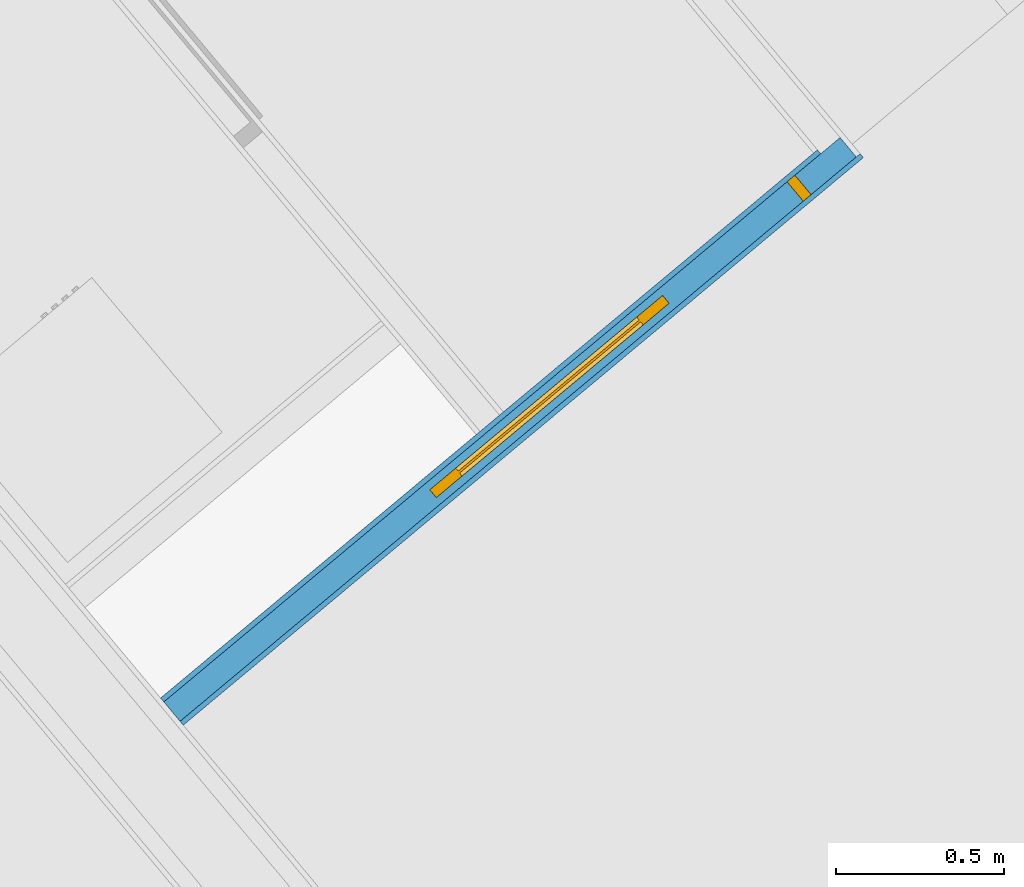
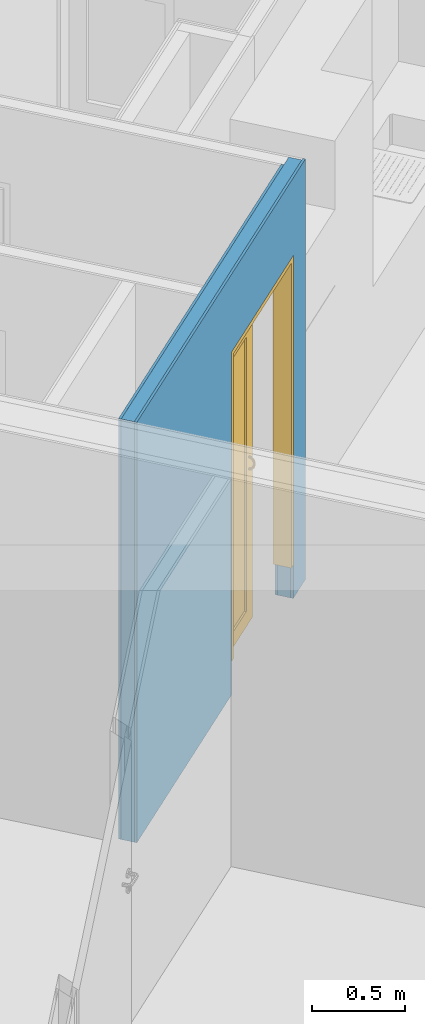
# One storey, part 11 of 58: 3 building element parts, 1 door, 1 opening, 1 element without a shape of its own.
"""IFC4 building model written with IfcOpenShell, lengths in metres."""

from ifc_helpers import new_model, entity, si_unit, converted_unit, derived_unit, direction, frame, origin_with_axes, place, context, subcontext, project, spatial, polygons, source, transform, mapped, material, type_object, element, fill, aggregate, save


model = new_model("IFC4")

# Units and contexts
model_context = context("Model", 3, precision=1e-05, world=origin_with_axes(), true_north=direction((0.0, 1.0)))
body_context = subcontext(model_context, "Body", "Model", "MODEL_VIEW")
ifc_project = project(units=[si_unit("LENGTHUNIT", "METRE"), si_unit("AREAUNIT", "SQUARE_METRE"), si_unit("VOLUMEUNIT", "CUBIC_METRE"), converted_unit("PLANEANGLEUNIT", "DEGREE", entity("IfcPlaneAngleMeasure", 0.0174532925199), si_unit("PLANEANGLEUNIT", "RADIAN"), dimensions=[0, 0, 0, 0, 0, 0, 0]), converted_unit("TIMEUNIT", "Year", entity("IfcTimeMeasure", 31556926.0), si_unit("TIMEUNIT", "SECOND"), dimensions=[0, 0, 1, 0, 0, 0, 0]), si_unit("MASSUNIT", "GRAM", prefix="KILO"), si_unit("THERMODYNAMICTEMPERATUREUNIT", "DEGREE_CELSIUS"), si_unit("LUMINOUSINTENSITYUNIT", "LUMEN"), si_unit("ENERGYUNIT", "JOULE", prefix="MEGA"), derived_unit("THERMALCONDUCTANCEUNIT", [(si_unit("POWERUNIT", "WATT"), 1), (si_unit("LENGTHUNIT", "METRE"), -1), (si_unit("THERMODYNAMICTEMPERATUREUNIT", "KELVIN"), -1)]), derived_unit("SPECIFICHEATCAPACITYUNIT", [(si_unit("ENERGYUNIT", "JOULE"), 1), (si_unit("MASSUNIT", "GRAM", prefix="KILO"), -1), (si_unit("THERMODYNAMICTEMPERATUREUNIT", "KELVIN"), -1)]), derived_unit("MASSDENSITYUNIT", [(si_unit("MASSUNIT", "GRAM", prefix="KILO"), 1), (si_unit("VOLUMEUNIT", "CUBIC_METRE"), -1)])], contexts=[model_context])

# Site, building, storey
site_placement = place(None, frame((-0.00153261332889, -0.00661245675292, 0.0), z_axis=(0.0, 0.0, 1.0), x_axis=(1.0, 0.0, 0.0)))
site = spatial("IfcSite", under=ifc_project, at=site_placement, Name="Site", CompositionType="ELEMENT")
building_placement = place(site_placement, origin_with_axes())
building = spatial("IfcBuilding", under=site, at=building_placement, Name="Building", CompositionType="ELEMENT")
storey_placement = place(building_placement, frame((0.0, 0.0, 5.7), z_axis=(0.0, 0.0, 1.0), x_axis=(1.0, 0.0, 0.0)))
storey = spatial("IfcBuildingStorey", under=building, at=storey_placement, Name="DG1", CompositionType="ELEMENT", Elevation=5.7)

# Door
door_type = type_object("IfcDoorType", Name="Schiebetür 02 1-Fl 26", OperationType="SLIDING_TO_RIGHT", PredefinedType="NOTDEFINED")
shared_shape = source(origin_with_axes(), body_context, "Body", "Tessellation", [
    polygons([(-0.48, 0.0, 0.0), (-0.48, 0.0, 2.03), (0.48, 0.0, 2.03), (0.48, 0.0, 0.0), (0.45, 0.0, 0.0), (0.45, 0.0, 2.0), (-0.45, 0.0, 2.0), (-0.45, 0.0, 0.0)], [[[1, 2, 3, 4, 5, 6, 7, 8]]], closed=False),
    polygons([(-0.45, -0.09, 0.0), (-0.45, -0.09, 2.0), (-0.45, -0.105, 2.0), (-0.45, -0.105, 0.0), (-0.48, -0.09, 0.0), (-0.48, -0.09, 2.0), (-0.48, -0.015, 2.0), (-0.45, -0.015, 2.0), (-0.45, 0.0, 2.0), (0.45, 0.0, 2.0), (0.45, -0.105, 2.0), (0.48, -0.105, 0.0), (0.48, -0.105, 2.03), (-0.48, -0.105, 2.03), (-0.48, -0.105, 0.0), (0.45, -0.105, 0.0), (-0.48, 0.0, 2.03), (-0.48, 0.0, 0.0), (-0.48, -0.015, 0.0), (-0.45, -0.015, 0.0), (-0.45, 0.0, 0.0), (0.48, 0.0, 2.03), (0.48, 0.0, 0.0), (0.45, 0.0, 0.0)], [[[1, 2, 3, 4]], [[2, 1, 5, 6]], [[2, 6, 7, 8, 9, 10, 11, 3]], [[12, 13, 14, 15, 4, 3, 11, 16]], [[5, 1, 4, 15]], [[6, 5, 15, 14, 17, 18, 19, 7]], [[20, 8, 7, 19]], [[8, 20, 21, 9]], [[10, 9, 21, 18, 17, 22, 23, 24]], [[24, 16, 11, 10]], [[22, 13, 12, 23]], [[17, 14, 13, 22]], [[23, 12, 16, 24]], [[20, 19, 18, 21]]], closed=True),
    polygons([(-0.48, -0.105, 0.0), (-0.48, -0.105, 2.03), (0.48, -0.105, 2.03), (0.48, -0.105, 0.0), (0.45, -0.105, 0.0), (0.45, -0.105, 2.0), (-0.45, -0.105, 2.0), (-0.45, -0.105, 0.0)], [[[1, 2, 3, 4, 5, 6, 7, 8]]], closed=False),
    polygons([(-0.94995, -0.0375, 0.1), (-0.84995, -0.0375, 0.1), (-0.84995, -0.0675, 0.1), (-0.94995, -0.0675, 0.1), (-0.94995, -0.0375, 1.8999), (-0.84995, -0.0375, 1.8999), (-0.84995, -0.0675, 1.8999), (-0.94995, -0.0675, 1.8999)], [[[1, 2, 3, 4]], [[1, 5, 6, 2]], [[2, 6, 7, 3]], [[4, 3, 7, 8]], [[5, 1, 4, 8]], [[6, 5, 8, 7]]], closed=True),
    polygons([(-0.05005, -0.0375, 1.8999), (-0.15005, -0.0375, 1.8999), (-0.15005, -0.0675, 1.8999), (-0.05005, -0.0675, 1.8999), (-0.05005, -0.0375, 0.1), (-0.15005, -0.0375, 0.1), (-0.15005, -0.0675, 0.1), (-0.05005, -0.0675, 0.1)], [[[1, 2, 3, 4]], [[1, 5, 6, 2]], [[2, 6, 7, 3]], [[4, 3, 7, 8]], [[5, 1, 4, 8]], [[6, 5, 8, 7]]], closed=True),
    polygons([(-0.05005, -0.0375, 0.0), (-0.05005, -0.0375, 0.1), (-0.05005, -0.0675, 0.1), (-0.05005, -0.0675, 0.0), (-0.94995, -0.0375, 0.0), (-0.94995, -0.0375, 0.1), (-0.84995, -0.0375, 0.1), (-0.15005, -0.0375, 0.1), (-0.15005, -0.0675, 0.1), (-0.84995, -0.0675, 0.1), (-0.94995, -0.0675, 0.1), (-0.94995, -0.0675, 0.0)], [[[1, 2, 3, 4]], [[1, 5, 6, 7, 8, 2]], [[2, 8, 9, 3]], [[4, 3, 9, 10, 11, 12]], [[5, 1, 4, 12]], [[6, 5, 12, 11]], [[7, 6, 11, 10]], [[8, 7, 10, 9]]], closed=True),
    polygons([(-0.94995, -0.0375, 1.9999), (-0.94995, -0.0375, 1.8999), (-0.94995, -0.0675, 1.8999), (-0.94995, -0.0675, 1.9999), (-0.05005, -0.0375, 1.9999), (-0.05005, -0.0375, 1.8999), (-0.15005, -0.0375, 1.8999), (-0.84995, -0.0375, 1.8999), (-0.84995, -0.0675, 1.8999), (-0.15005, -0.0675, 1.8999), (-0.05005, -0.0675, 1.8999), (-0.05005, -0.0675, 1.9999)], [[[1, 2, 3, 4]], [[1, 5, 6, 7, 8, 2]], [[2, 8, 9, 3]], [[4, 3, 9, 10, 11, 12]], [[5, 1, 4, 12]], [[6, 5, 12, 11]], [[7, 6, 11, 10]], [[8, 7, 10, 9]]], closed=True),
    polygons([(-0.84995, -0.049, 0.1), (-0.15005, -0.049, 0.1), (-0.15005, -0.056, 0.1), (-0.84995, -0.056, 0.1), (-0.84995, -0.049, 1.8999), (-0.15005, -0.049, 1.8999), (-0.15005, -0.056, 1.8999), (-0.84995, -0.056, 1.8999)], [[[1, 2, 3, 4]], [[1, 5, 6, 2]], [[2, 6, 7, 3]], [[4, 3, 7, 8]], [[5, 1, 4, 8]], [[6, 5, 8, 7]]], closed=True),
    polygons([(-0.11705, -0.0825, 1.08598076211), (-0.116112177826, -0.08425, 1.08901185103), (-0.116112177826, -0.0675, 1.0935), (-0.11705, -0.0675, 1.09), (-0.11705, -0.0934807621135, 1.075), (-0.116112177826, -0.0965118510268, 1.07675), (-0.11355, -0.0855310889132, 1.09123076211), (-0.11355, -0.0675, 1.09606217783), (-0.11005, -0.0675, 1.097), (-0.10655, -0.0675, 1.09606217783), (-0.103987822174, -0.0675, 1.0935), (-0.10305, -0.0675, 1.09), (-0.103987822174, -0.0675, 1.0865), (-0.10655, -0.0675, 1.08393782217), (-0.11005, -0.0675, 1.083), (-0.11355, -0.0675, 1.08393782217), (-0.116112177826, -0.0675, 1.0865), (-0.116112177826, -0.08075, 1.0829496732), (-0.11705, -0.0975, 1.06), (-0.116112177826, -0.101, 1.06), (-0.11355, -0.0987307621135, 1.07803108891), (-0.116112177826, -0.0904496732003, 1.07325), (-0.11005, -0.086, 1.09204293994), (-0.10655, -0.0855310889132, 1.09123076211), (-0.103987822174, -0.08425, 1.08901185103), (-0.10305, -0.0825, 1.08598076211), (-0.103987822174, -0.08075, 1.0829496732), (-0.10655, -0.0794689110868, 1.08073076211), (-0.11005, -0.079, 1.07991858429), (-0.11355, -0.0794689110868, 1.08073076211), (-0.116112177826, -0.094, 1.06), (-0.11355, -0.0914378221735, 1.06), (-0.11005, -0.0905, 1.06), (-0.10655, -0.0914378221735, 1.06), (-0.103987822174, -0.094, 1.06), (-0.10305, -0.0975, 1.06), (-0.103987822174, -0.101, 1.06), (-0.10655, -0.103562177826, 1.06), (-0.11005, -0.1045, 1.06), (-0.11355, -0.103562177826, 1.06), (-0.11005, -0.09954293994, 1.0785), (-0.11355, -0.0882307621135, 1.07196891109), (-0.10655, -0.0987307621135, 1.07803108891), (-0.103987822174, -0.0965118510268, 1.07675), (-0.10305, -0.0934807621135, 1.075), (-0.103987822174, -0.0904496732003, 1.07325), (-0.10655, -0.0882307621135, 1.07196891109), (-0.11005, -0.087418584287, 1.0715)], [[[1, 2, 3, 4]], [[5, 6, 2, 1]], [[2, 7, 8, 3]], [[4, 3, 8, 9, 10, 11, 12, 13, 14, 15, 16, 17]], [[18, 1, 4, 17]], [[19, 20, 6, 5]], [[6, 21, 7, 2]], [[22, 5, 1, 18]], [[7, 23, 9, 8]], [[23, 24, 10, 9]], [[24, 25, 11, 10]], [[25, 26, 12, 11]], [[26, 27, 13, 12]], [[27, 28, 14, 13]], [[28, 29, 15, 14]], [[29, 30, 16, 15]], [[30, 18, 17, 16]], [[19, 31, 32, 33, 34, 35, 36, 37, 38, 39, 40, 20]], [[20, 40, 21, 6]], [[31, 19, 5, 22]], [[21, 41, 23, 7]], [[42, 22, 18, 30]], [[41, 43, 24, 23]], [[43, 44, 25, 24]], [[44, 45, 26, 25]], [[45, 46, 27, 26]], [[46, 47, 28, 27]], [[47, 48, 29, 28]], [[48, 42, 30, 29]], [[32, 31, 22, 42]], [[33, 32, 42, 48]], [[34, 33, 48, 47]], [[35, 34, 47, 46]], [[36, 35, 46, 45]], [[37, 36, 45, 44]], [[38, 37, 44, 43]], [[39, 38, 43, 41]], [[40, 39, 41, 21]]], closed=True),
    polygons([(-0.10305, -0.0825, 1.01401923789), (-0.103987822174, -0.08425, 1.01098814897), (-0.103987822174, -0.0675, 1.0065), (-0.10305, -0.0675, 1.01), (-0.10305, -0.0934807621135, 1.025), (-0.103987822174, -0.0965118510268, 1.02325), (-0.10655, -0.0855310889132, 1.00876923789), (-0.10655, -0.0675, 1.00393782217), (-0.11005, -0.0675, 1.003), (-0.11355, -0.0675, 1.00393782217), (-0.116112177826, -0.0675, 1.0065), (-0.11705, -0.0675, 1.01), (-0.116112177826, -0.0675, 1.0135), (-0.11355, -0.0675, 1.01606217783), (-0.11005, -0.0675, 1.017), (-0.10655, -0.0675, 1.01606217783), (-0.103987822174, -0.0675, 1.0135), (-0.103987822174, -0.08075, 1.0170503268), (-0.10305, -0.0975, 1.04), (-0.103987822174, -0.101, 1.04), (-0.10655, -0.0987307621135, 1.02196891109), (-0.103987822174, -0.0904496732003, 1.02675), (-0.11005, -0.086, 1.00795706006), (-0.11355, -0.0855310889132, 1.00876923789), (-0.116112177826, -0.08425, 1.01098814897), (-0.11705, -0.0825, 1.01401923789), (-0.116112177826, -0.08075, 1.0170503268), (-0.11355, -0.0794689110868, 1.01926923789), (-0.11005, -0.079, 1.02008141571), (-0.10655, -0.0794689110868, 1.01926923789), (-0.103987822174, -0.094, 1.04), (-0.10655, -0.0914378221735, 1.04), (-0.11005, -0.0905, 1.04), (-0.11355, -0.0914378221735, 1.04), (-0.116112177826, -0.094, 1.04), (-0.11705, -0.0975, 1.04), (-0.116112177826, -0.101, 1.04), (-0.11355, -0.103562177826, 1.04), (-0.11005, -0.1045, 1.04), (-0.10655, -0.103562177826, 1.04), (-0.11005, -0.09954293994, 1.0215), (-0.10655, -0.0882307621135, 1.02803108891), (-0.11355, -0.0987307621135, 1.02196891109), (-0.116112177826, -0.0965118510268, 1.02325), (-0.11705, -0.0934807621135, 1.025), (-0.116112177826, -0.0904496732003, 1.02675), (-0.11355, -0.0882307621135, 1.02803108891), (-0.11005, -0.087418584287, 1.0285)], [[[1, 2, 3, 4]], [[5, 6, 2, 1]], [[2, 7, 8, 3]], [[4, 3, 8, 9, 10, 11, 12, 13, 14, 15, 16, 17]], [[18, 1, 4, 17]], [[19, 20, 6, 5]], [[6, 21, 7, 2]], [[22, 5, 1, 18]], [[7, 23, 9, 8]], [[23, 24, 10, 9]], [[24, 25, 11, 10]], [[25, 26, 12, 11]], [[26, 27, 13, 12]], [[27, 28, 14, 13]], [[28, 29, 15, 14]], [[29, 30, 16, 15]], [[30, 18, 17, 16]], [[19, 31, 32, 33, 34, 35, 36, 37, 38, 39, 40, 20]], [[20, 40, 21, 6]], [[31, 19, 5, 22]], [[21, 41, 23, 7]], [[42, 22, 18, 30]], [[41, 43, 24, 23]], [[43, 44, 25, 24]], [[44, 45, 26, 25]], [[45, 46, 27, 26]], [[46, 47, 28, 27]], [[47, 48, 29, 28]], [[48, 42, 30, 29]], [[32, 31, 22, 42]], [[33, 32, 42, 48]], [[34, 33, 48, 47]], [[35, 34, 47, 46]], [[36, 35, 46, 45]], [[37, 36, 45, 44]], [[38, 37, 44, 43]], [[39, 38, 43, 41]], [[40, 39, 41, 21]]], closed=True),
    polygons([(-0.11705, -0.0975, 1.04), (-0.11705, -0.0975, 1.06), (-0.116112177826, -0.094, 1.06), (-0.116112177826, -0.094, 1.04), (-0.116112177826, -0.101, 1.04), (-0.116112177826, -0.101, 1.06), (-0.11355, -0.103562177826, 1.06), (-0.11005, -0.1045, 1.06), (-0.10655, -0.103562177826, 1.06), (-0.103987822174, -0.101, 1.06), (-0.10305, -0.0975, 1.06), (-0.103987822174, -0.094, 1.06), (-0.10655, -0.0914378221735, 1.06), (-0.11005, -0.0905, 1.06), (-0.11355, -0.0914378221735, 1.06), (-0.11355, -0.0914378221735, 1.04), (-0.11005, -0.0905, 1.04), (-0.10655, -0.0914378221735, 1.04), (-0.103987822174, -0.094, 1.04), (-0.10305, -0.0975, 1.04), (-0.103987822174, -0.101, 1.04), (-0.10655, -0.103562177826, 1.04), (-0.11005, -0.1045, 1.04), (-0.11355, -0.103562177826, 1.04)], [[[1, 2, 3, 4]], [[5, 6, 2, 1]], [[2, 6, 7, 8, 9, 10, 11, 12, 13, 14, 15, 3]], [[4, 3, 15, 16]], [[1, 4, 16, 17, 18, 19, 20, 21, 22, 23, 24, 5]], [[24, 7, 6, 5]], [[23, 8, 7, 24]], [[22, 9, 8, 23]], [[21, 10, 9, 22]], [[20, 11, 10, 21]], [[19, 12, 11, 20]], [[18, 13, 12, 19]], [[17, 14, 13, 18]], [[16, 15, 14, 17]]], closed=True),
    polygons([(-0.11705, -0.0225, 1.08598076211), (-0.11705, -0.0375, 1.09), (-0.116112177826, -0.0375, 1.0935), (-0.116112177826, -0.02075, 1.08901185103), (-0.116112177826, -0.02425, 1.0829496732), (-0.116112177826, -0.0375, 1.0865), (-0.11355, -0.0375, 1.08393782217), (-0.11005, -0.0375, 1.083), (-0.10655, -0.0375, 1.08393782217), (-0.103987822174, -0.0375, 1.0865), (-0.10305, -0.0375, 1.09), (-0.103987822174, -0.0375, 1.0935), (-0.10655, -0.0375, 1.09606217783), (-0.11005, -0.0375, 1.097), (-0.11355, -0.0375, 1.09606217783), (-0.11355, -0.0194689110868, 1.09123076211), (-0.11705, -0.0115192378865, 1.075), (-0.116112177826, -0.00848814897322, 1.07675), (-0.11355, -0.0255310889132, 1.08073076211), (-0.116112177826, -0.0145503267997, 1.07325), (-0.11005, -0.026, 1.07991858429), (-0.10655, -0.0255310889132, 1.08073076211), (-0.103987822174, -0.02425, 1.0829496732), (-0.10305, -0.0225, 1.08598076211), (-0.103987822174, -0.02075, 1.08901185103), (-0.10655, -0.0194689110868, 1.09123076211), (-0.11005, -0.019, 1.09204293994), (-0.11355, -0.00626923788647, 1.07803108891), (-0.11705, -0.0075, 1.06), (-0.116112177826, -0.004, 1.06), (-0.11355, -0.0167692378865, 1.07196891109), (-0.116112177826, -0.011, 1.06), (-0.11005, -0.017581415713, 1.0715), (-0.10655, -0.0167692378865, 1.07196891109), (-0.103987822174, -0.0145503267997, 1.07325), (-0.10305, -0.0115192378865, 1.075), (-0.103987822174, -0.00848814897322, 1.07675), (-0.10655, -0.00626923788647, 1.07803108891), (-0.11005, -0.00545706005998, 1.0785), (-0.11355, -0.00143782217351, 1.06), (-0.11005, -0.0005, 1.06), (-0.10655, -0.00143782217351, 1.06), (-0.103987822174, -0.004, 1.06), (-0.10305, -0.0075, 1.06), (-0.103987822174, -0.011, 1.06), (-0.10655, -0.0135621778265, 1.06), (-0.11005, -0.0145, 1.06), (-0.11355, -0.0135621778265, 1.06)], [[[1, 2, 3, 4]], [[5, 6, 2, 1]], [[2, 6, 7, 8, 9, 10, 11, 12, 13, 14, 15, 3]], [[4, 3, 15, 16]], [[17, 1, 4, 18]], [[19, 7, 6, 5]], [[20, 5, 1, 17]], [[21, 8, 7, 19]], [[22, 9, 8, 21]], [[23, 10, 9, 22]], [[24, 11, 10, 23]], [[25, 12, 11, 24]], [[26, 13, 12, 25]], [[27, 14, 13, 26]], [[16, 15, 14, 27]], [[18, 4, 16, 28]], [[29, 17, 18, 30]], [[31, 19, 5, 20]], [[32, 20, 17, 29]], [[33, 21, 19, 31]], [[34, 22, 21, 33]], [[35, 23, 22, 34]], [[36, 24, 23, 35]], [[37, 25, 24, 36]], [[38, 26, 25, 37]], [[39, 27, 26, 38]], [[28, 16, 27, 39]], [[30, 18, 28, 40]], [[29, 30, 40, 41, 42, 43, 44, 45, 46, 47, 48, 32]], [[48, 31, 20, 32]], [[47, 33, 31, 48]], [[46, 34, 33, 47]], [[45, 35, 34, 46]], [[44, 36, 35, 45]], [[43, 37, 36, 44]], [[42, 38, 37, 43]], [[41, 39, 38, 42]], [[40, 28, 39, 41]]], closed=True),
    polygons([(-0.10305, -0.0225, 1.01401923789), (-0.10305, -0.0375, 1.01), (-0.103987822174, -0.0375, 1.0065), (-0.103987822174, -0.02075, 1.01098814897), (-0.103987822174, -0.02425, 1.0170503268), (-0.103987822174, -0.0375, 1.0135), (-0.10655, -0.0375, 1.01606217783), (-0.11005, -0.0375, 1.017), (-0.11355, -0.0375, 1.01606217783), (-0.116112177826, -0.0375, 1.0135), (-0.11705, -0.0375, 1.01), (-0.116112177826, -0.0375, 1.0065), (-0.11355, -0.0375, 1.00393782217), (-0.11005, -0.0375, 1.003), (-0.10655, -0.0375, 1.00393782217), (-0.10655, -0.0194689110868, 1.00876923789), (-0.10305, -0.0115192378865, 1.025), (-0.103987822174, -0.00848814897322, 1.02325), (-0.10655, -0.0255310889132, 1.01926923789), (-0.103987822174, -0.0145503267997, 1.02675), (-0.11005, -0.026, 1.02008141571), (-0.11355, -0.0255310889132, 1.01926923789), (-0.116112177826, -0.02425, 1.0170503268), (-0.11705, -0.0225, 1.01401923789), (-0.116112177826, -0.02075, 1.01098814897), (-0.11355, -0.0194689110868, 1.00876923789), (-0.11005, -0.019, 1.00795706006), (-0.10655, -0.00626923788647, 1.02196891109), (-0.10305, -0.0075, 1.04), (-0.103987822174, -0.004, 1.04), (-0.10655, -0.0167692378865, 1.02803108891), (-0.103987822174, -0.011, 1.04), (-0.11005, -0.017581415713, 1.0285), (-0.11355, -0.0167692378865, 1.02803108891), (-0.116112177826, -0.0145503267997, 1.02675), (-0.11705, -0.0115192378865, 1.025), (-0.116112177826, -0.00848814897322, 1.02325), (-0.11355, -0.00626923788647, 1.02196891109), (-0.11005, -0.00545706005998, 1.0215), (-0.10655, -0.00143782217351, 1.04), (-0.11005, -0.0005, 1.04), (-0.11355, -0.00143782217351, 1.04), (-0.116112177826, -0.004, 1.04), (-0.11705, -0.0075, 1.04), (-0.116112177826, -0.011, 1.04), (-0.11355, -0.0135621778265, 1.04), (-0.11005, -0.0145, 1.04), (-0.10655, -0.0135621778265, 1.04)], [[[1, 2, 3, 4]], [[5, 6, 2, 1]], [[2, 6, 7, 8, 9, 10, 11, 12, 13, 14, 15, 3]], [[4, 3, 15, 16]], [[17, 1, 4, 18]], [[19, 7, 6, 5]], [[20, 5, 1, 17]], [[21, 8, 7, 19]], [[22, 9, 8, 21]], [[23, 10, 9, 22]], [[24, 11, 10, 23]], [[25, 12, 11, 24]], [[26, 13, 12, 25]], [[27, 14, 13, 26]], [[16, 15, 14, 27]], [[18, 4, 16, 28]], [[29, 17, 18, 30]], [[31, 19, 5, 20]], [[32, 20, 17, 29]], [[33, 21, 19, 31]], [[34, 22, 21, 33]], [[35, 23, 22, 34]], [[36, 24, 23, 35]], [[37, 25, 24, 36]], [[38, 26, 25, 37]], [[39, 27, 26, 38]], [[28, 16, 27, 39]], [[30, 18, 28, 40]], [[29, 30, 40, 41, 42, 43, 44, 45, 46, 47, 48, 32]], [[48, 31, 20, 32]], [[47, 33, 31, 48]], [[46, 34, 33, 47]], [[45, 35, 34, 46]], [[44, 36, 35, 45]], [[43, 37, 36, 44]], [[42, 38, 37, 43]], [[41, 39, 38, 42]], [[40, 28, 39, 41]]], closed=True),
    polygons([(-0.11705, -0.0075, 1.04), (-0.116112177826, -0.011, 1.04), (-0.116112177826, -0.011, 1.06), (-0.11705, -0.0075, 1.06), (-0.116112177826, -0.004, 1.04), (-0.11355, -0.00143782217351, 1.04), (-0.11005, -0.0005, 1.04), (-0.10655, -0.00143782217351, 1.04), (-0.103987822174, -0.004, 1.04), (-0.10305, -0.0075, 1.04), (-0.103987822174, -0.011, 1.04), (-0.10655, -0.0135621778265, 1.04), (-0.11005, -0.0145, 1.04), (-0.11355, -0.0135621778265, 1.04), (-0.11355, -0.0135621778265, 1.06), (-0.11005, -0.0145, 1.06), (-0.10655, -0.0135621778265, 1.06), (-0.103987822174, -0.011, 1.06), (-0.10305, -0.0075, 1.06), (-0.103987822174, -0.004, 1.06), (-0.10655, -0.00143782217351, 1.06), (-0.11005, -0.0005, 1.06), (-0.11355, -0.00143782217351, 1.06), (-0.116112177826, -0.004, 1.06)], [[[1, 2, 3, 4]], [[1, 5, 6, 7, 8, 9, 10, 11, 12, 13, 14, 2]], [[2, 14, 15, 3]], [[4, 3, 15, 16, 17, 18, 19, 20, 21, 22, 23, 24]], [[5, 1, 4, 24]], [[6, 5, 24, 23]], [[7, 6, 23, 22]], [[8, 7, 22, 21]], [[9, 8, 21, 20]], [[10, 9, 20, 19]], [[11, 10, 19, 18]], [[12, 11, 18, 17]], [[13, 12, 17, 16]], [[14, 13, 16, 15]]], closed=True),
])
wall_placement = place(storey_placement, frame((4.80804242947, 20.7632711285, 0.0), z_axis=(0.0, 0.0, 1.0), x_axis=(0.767768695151, 0.640727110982, 0.0)))
opening_placement = place(wall_placement, frame((1.95933100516, 0.0, 0.22), z_axis=(0.0, 0.0, 1.0), x_axis=(1.0, 0.0, 0.0)))
door_placement = place(opening_placement, frame((-0.45, 0.0, 0.0), z_axis=(0.0, 0.0, 1.0), x_axis=(1.0, 0.0, 0.0)))
door = element("IfcDoor", 1, at=door_placement, inside=storey, type_object=door_type, Name="Tür-001", OverallHeight=2.25, OverallWidth=0.96, PredefinedType="NOTDEFINED", context=body_context, shape_type="MappedRepresentation", body=[
    mapped(shared_shape, transform((0.45, 0.105, 0.0))),
])

# Wall, opening
wall_type = type_object("IfcWallType", Name="IW LB 01 Leichtbautrennwand einfach 10,5 cm 105", PredefinedType="NOTDEFINED")
wall = element("IfcWall", 2, at=wall_placement, inside=storey, type_object=wall_type, Name="Wand-012", PredefinedType="NOTDEFINED")
opening = element("IfcOpeningElement", 3, at=opening_placement, cuts=wall, Name="Tür-001", context=body_context, identifier="Reference", shape_type="Tessellation", body=[
    polygons([(-0.48, -1.29435140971, -0.22), (-0.48, -1.29435140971, 2.03), (-0.48, 1.39935140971, 2.03), (-0.48, 1.39935140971, -0.22), (-0.48, 0.09, 2.0), (-0.48, 0.015, 2.0), (-0.48, 0.015, 0.0), (-0.48, 0.09, 0.0), (0.48, -1.29435140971, -0.22), (0.48, -1.29435140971, 2.03), (0.48, 1.39935140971, 2.03), (0.48, 1.39935140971, -0.22), (-1.44, 0.09, 2.0), (-1.44, 0.015, 2.0), (-1.44, 0.015, 0.0), (-1.44, 0.09, 0.0)], [[[1, 2, 3, 4], [5, 6, 7, 8]], [[1, 9, 10, 2]], [[2, 10, 11, 3]], [[11, 12, 4, 3]], [[9, 1, 4, 12]], [[6, 5, 13, 14]], [[7, 6, 14, 15]], [[8, 7, 15, 16]], [[5, 8, 16, 13]], [[10, 9, 12, 11]], [[14, 13, 16, 15]]], closed=True),
])

fill(opening, door)

# Building element part
ifc_material_1 = material(Name="Gipskarton")
building_element_part_1_placement = place(wall_placement, origin_with_axes())
building_element_part_1 = element("IfcBuildingElementPart", 4, at=building_element_part_1_placement, material=ifc_material_1, Name="Gipskarton", PredefinedType="NOTDEFINED", context=body_context, shape_type="Tessellation", body=[
    polygons([(1.47933100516, 0.09, 0.22), (1.47933100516, 0.09, 2.25), (2.43933100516, 0.09, 2.25), (2.43933100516, 0.09, 0.22), (2.43933098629, 0.09, 0.0), (2.53907934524, 0.09, 0.0), (2.53907934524, 0.09, 2.76), (-5.09128512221e-05, 0.09, 2.76), (-5.09128512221e-05, 0.09, 0.0), (1.47933100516, 0.09, 0.0), (1.47933100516, 0.104999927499, 0.22), (1.47933100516, 0.104999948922, 2.25), (2.43933100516, 0.104999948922, 2.25), (2.43933100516, 0.104999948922, 0.22), (2.43933098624, 0.104999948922, 0.0), (2.53906991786, 0.105, 0.0), (2.53906991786, 0.105, 2.76), (-5.9398326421e-05, 0.105, 2.76), (-5.9398326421e-05, 0.105, 0.0), (1.47933100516, 0.104999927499, 0.0)], [[[1, 2, 3, 4, 5, 6, 7, 8, 9, 10]], [[2, 1, 11, 12]], [[3, 2, 12, 13]], [[4, 3, 13, 14]], [[4, 14, 15, 5]], [[15, 16, 6, 5]], [[16, 17, 7, 6]], [[17, 18, 8, 7]], [[19, 9, 8, 18]], [[10, 9, 19, 20]], [[11, 1, 10, 20]], [[12, 11, 20, 19, 18, 17, 16, 15, 14, 13]]], closed=True),
])

ifc_material_2 = material(Name="Mineralwolle weich")
building_element_part_2_placement = place(wall_placement, origin_with_axes())
building_element_part_2 = element("IfcBuildingElementPart", 5, at=building_element_part_2_placement, material=ifc_material_2, Name="Mineralwolle weich", PredefinedType="NOTDEFINED", context=body_context, shape_type="Tessellation", body=[
    polygons([(0.519331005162, 0.015, 0.22), (0.519331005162, 0.015, 2.22), (1.47933100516, 0.015, 2.22), (1.47933100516, 0.015, 2.25), (2.43933100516, 0.015, 2.25), (2.43933100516, 0.015, 0.22), (2.43933098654, 0.015, 0.0), (2.61412649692, 0.015, 0.0), (2.61412649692, 0.015, 2.76), (-8.48547520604e-06, 0.015, 2.76), (-8.48547520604e-06, 0.015, 0.0), (1.47933100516, 0.015, 0.0), (1.47933100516, 0.015, 0.22), (0.519331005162, 0.09, 0.22), (0.519331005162, 0.09, 2.22), (1.47933100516, 0.09, 2.22), (1.47933100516, 0.09, 2.25), (2.43933100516, 0.09, 2.25), (2.43933100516, 0.09, 0.22), (2.43933098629, 0.09, 0.0), (2.61407936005, 0.09, 0.0), (2.61407936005, 0.09, 2.76), (-5.09128512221e-05, 0.09, 2.76), (-5.09128512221e-05, 0.09, 0.0), (1.47933100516, 0.09, 0.0), (1.47933100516, 0.09, 0.22)], [[[1, 2, 3, 4, 5, 6, 7, 8, 9, 10, 11, 12, 13]], [[2, 1, 14, 15]], [[16, 3, 2, 15]], [[3, 16, 17, 4]], [[4, 17, 18, 5]], [[5, 18, 19, 6]], [[19, 20, 7, 6]], [[21, 8, 7, 20]], [[22, 9, 8, 21]], [[23, 10, 9, 22]], [[11, 10, 23, 24]], [[11, 24, 25, 12]], [[26, 13, 12, 25]], [[1, 13, 26, 14]], [[14, 26, 25, 24, 23, 22, 21, 20, 19, 18, 17, 16, 15]]], closed=True),
])

building_element_part_3_placement = place(wall_placement, origin_with_axes())
building_element_part_3 = element("IfcBuildingElementPart", 6, at=building_element_part_3_placement, material=ifc_material_1, Name="Gipskarton", PredefinedType="NOTDEFINED", context=body_context, shape_type="Tessellation", body=[
    polygons([(1.47933100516, 0.0, 0.22), (1.47933100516, 0.0, 2.25), (2.43933100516, 0.0, 2.25), (2.43933100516, 0.0, 0.22), (2.4393309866, 0.0, 0.0), (2.62913592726, 0.0, 0.0), (2.62913592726, 0.0, 2.76), (0.0, 0.0, 2.76), (0.0, 0.0, 0.0), (1.47933100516, 0.0, 0.0), (1.47933100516, 0.015, 0.22), (1.47933100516, 0.015, 2.25), (2.43933100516, 0.015, 2.25), (2.43933100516, 0.015, 0.22), (2.43933098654, 0.015, 0.0), (2.62912649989, 0.015, 0.0), (2.62912649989, 0.015, 2.76), (-8.48547520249e-06, 0.015, 2.76), (-8.48547520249e-06, 0.015, 0.0), (1.47933100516, 0.015, 0.0)], [[[1, 2, 3, 4, 5, 6, 7, 8, 9, 10]], [[2, 1, 11, 12]], [[3, 2, 12, 13]], [[4, 3, 13, 14]], [[4, 14, 15, 5]], [[15, 16, 6, 5]], [[16, 17, 7, 6]], [[17, 18, 8, 7]], [[19, 9, 8, 18]], [[10, 9, 19, 20]], [[11, 1, 10, 20]], [[12, 11, 20, 19, 18, 17, 16, 15, 14, 13]]], closed=True),
])

aggregate(wall, [building_element_part_1, building_element_part_2, building_element_part_3])

save(model, "model.ifc")
